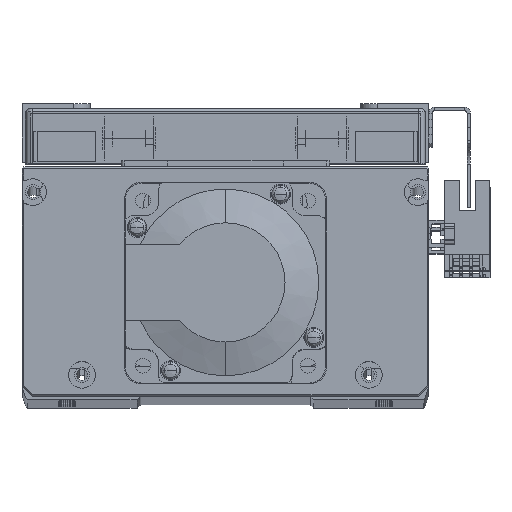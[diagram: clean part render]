
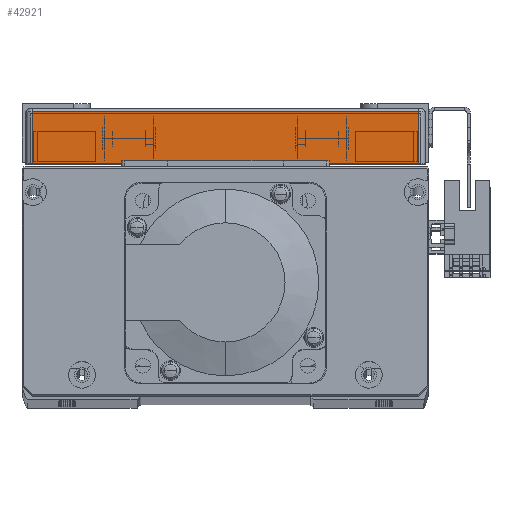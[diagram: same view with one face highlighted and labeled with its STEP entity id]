
A CAD part, top view. The second image highlights one B-rep face of the part: STEP entity #42921.
In plain terms, the highlighted planar face has unit normal (0, 0, 1) as drawn and (1, 0, 0) by its records, which use the part's own axes.
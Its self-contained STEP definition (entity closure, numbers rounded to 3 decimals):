
#3196 = ORIENTED_EDGE ( 'NONE', *, *, #25022, .T. ) ;
#3256 = ORIENTED_EDGE ( 'NONE', *, *, #25001, .T. ) ;
#3298 = ORIENTED_EDGE ( 'NONE', *, *, #25058, .T. ) ;
#3418 = ORIENTED_EDGE ( 'NONE', *, *, #25014, .T. ) ;
#6447 = FACE_OUTER_BOUND ( 'NONE', #9460, .T. ) ;
#7814 = DIRECTION ( 'NONE',  ( -1., 0., 0. ) ) ;
#7834 = CARTESIAN_POINT ( 'NONE',  ( 85.5, 16.5, -60. ) ) ;
#7849 = PLANE ( 'NONE',  #55648 ) ;
#7851 = DIRECTION ( 'NONE',  ( 0., 0., 1. ) ) ;
#9460 = EDGE_LOOP ( 'NONE', ( #3256, #3196, #3418, #3298 ) ) ;
#25001 = EDGE_CURVE ( 'NONE', #28053, #28045, #47838, .T. ) ;
#25014 = EDGE_CURVE ( 'NONE', #28049, #28011, #47786, .T. ) ;
#25022 = EDGE_CURVE ( 'NONE', #28045, #28049, #47891, .T. ) ;
#25058 = EDGE_CURVE ( 'NONE', #28011, #28053, #46163, .T. ) ;
#28011 = VERTEX_POINT ( 'NONE', #35152 ) ;
#28045 = VERTEX_POINT ( 'NONE', #35224 ) ;
#28049 = VERTEX_POINT ( 'NONE', #35243 ) ;
#28053 = VERTEX_POINT ( 'NONE', #35187 ) ;
#35152 = CARTESIAN_POINT ( 'NONE',  ( 85.5, 0., 58. ) ) ;
#35187 = CARTESIAN_POINT ( 'NONE',  ( 85.5, 0., -58. ) ) ;
#35224 = CARTESIAN_POINT ( 'NONE',  ( 85.5, 15.5, -58. ) ) ;
#35243 = CARTESIAN_POINT ( 'NONE',  ( 85.5, 15.5, 58. ) ) ;
#42921 = ADVANCED_FACE ( 'NONE', ( #6447 ), #7849, .F. ) ;
#46163 = LINE ( 'NONE', #50291, #46206 ) ;
#46206 = VECTOR ( 'NONE', #50287, 1000. ) ;
#47786 = LINE ( 'NONE', #50174, #47791 ) ;
#47791 = VECTOR ( 'NONE', #50160, 1000. ) ;
#47808 = VECTOR ( 'NONE', #50185, 1000. ) ;
#47838 = LINE ( 'NONE', #50182, #47808 ) ;
#47863 = VECTOR ( 'NONE', #50206, 1000. ) ;
#47891 = LINE ( 'NONE', #50219, #47863 ) ;
#50160 = DIRECTION ( 'NONE',  ( 0., -1., 0. ) ) ;
#50174 = CARTESIAN_POINT ( 'NONE',  ( 85.5, 16.5, 58. ) ) ;
#50182 = CARTESIAN_POINT ( 'NONE',  ( 85.5, 16.5, -58. ) ) ;
#50185 = DIRECTION ( 'NONE',  ( 0., 1., 0. ) ) ;
#50206 = DIRECTION ( 'NONE',  ( 0., 0., 1. ) ) ;
#50219 = CARTESIAN_POINT ( 'NONE',  ( 85.5, 15.5, 58. ) ) ;
#50287 = DIRECTION ( 'NONE',  ( 0., 0., -1. ) ) ;
#50291 = CARTESIAN_POINT ( 'NONE',  ( 85.5, 0., -60. ) ) ;
#55648 = AXIS2_PLACEMENT_3D ( 'NONE', #7834, #7814, #7851 ) ;
